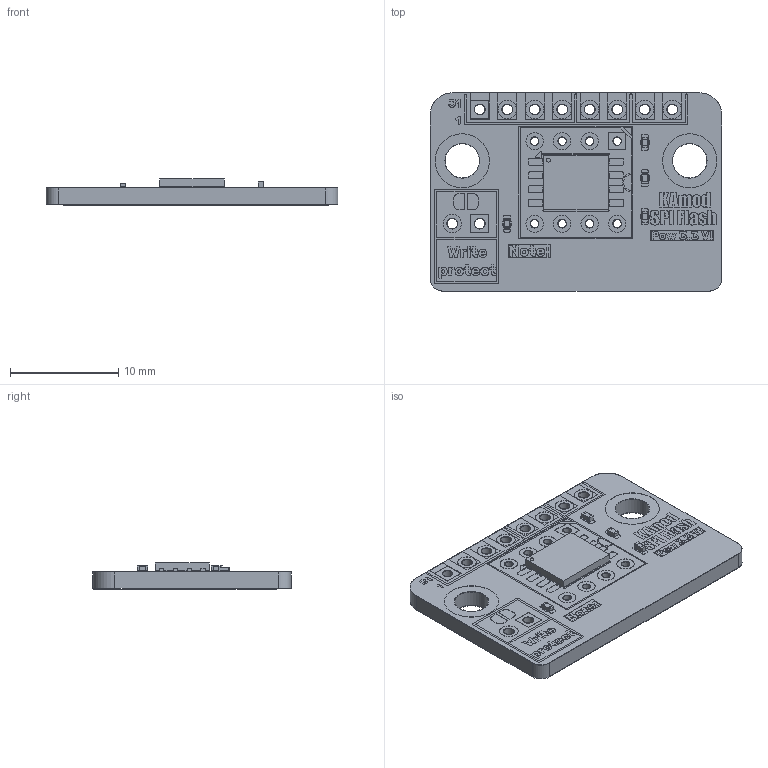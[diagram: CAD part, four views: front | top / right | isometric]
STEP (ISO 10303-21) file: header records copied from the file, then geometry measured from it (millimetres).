
FILE_DESCRIPTION(('KiCad electronic assembly'),'2;1');
FILE_NAME('KAmod-SPI Flash.step','2025-03-28T11:38:32',('Pcbnew'),( 'Kicad'),'Open CASCADE STEP processor 7.8','KiCad to STEP converter' ,'Unknown');
FILE_SCHEMA(('AUTOMOTIVE_DESIGN { 1 0 10303 214 1 1 1 1 }'));
Length unit declared in the file: millimetre
Products named in the file (8): KAmod-SPI Flash 1; R_0402_1005Metric; C_0402_1005Metric; WSON-8-1EP_6x5mm_P1.27mm_EP3.4x4.3mm; KAmod-SPI Flash_pad; KAmod-SPI Flash_silkscreen; KAmod-SPI Flash_soldermask; KAmod-SPI Flash_PCB
Assembly tree (9 placements, depth 2):
  KAmod-SPI Flash 1
    R_0402_1005Metric  x2
    C_0402_1005Metric  x2
    WSON-8-1EP_6x5mm_P1.27mm_EP3.4x4.3mm
    KAmod-SPI Flash_pad
    KAmod-SPI Flash_silkscreen
    KAmod-SPI Flash_soldermask
    KAmod-SPI Flash_PCB
Bounding box: 26.92 x 18.29 x 2.42 mm (x, y, z)
Volume: 728.9 mm3; surface area: 2642.5 mm2
Topology: 93 solids, 201 shells, 846 faces, 6063 edges, 5518 vertices
Faces by surface type: plane 558, cylinder 288
Full cylindrical faces by diameter (mm): 0.25 x1, 0.35 x1, 0.75 x24, 0.8 x16, 0.95 x30, 1 x20, 1.6 x14, 1.7 x16, 3.15 x6, 3.2 x4, 5 x4
Entity records: 59155 total; most frequent: CARTESIAN_POINT 12151, DIRECTION 8682, ORIENTED_EDGE 7410, EDGE_CURVE 5923, VERTEX_POINT 5426, LINE 4768, VECTOR 4768, AXIS2_PLACEMENT_3D 1957
